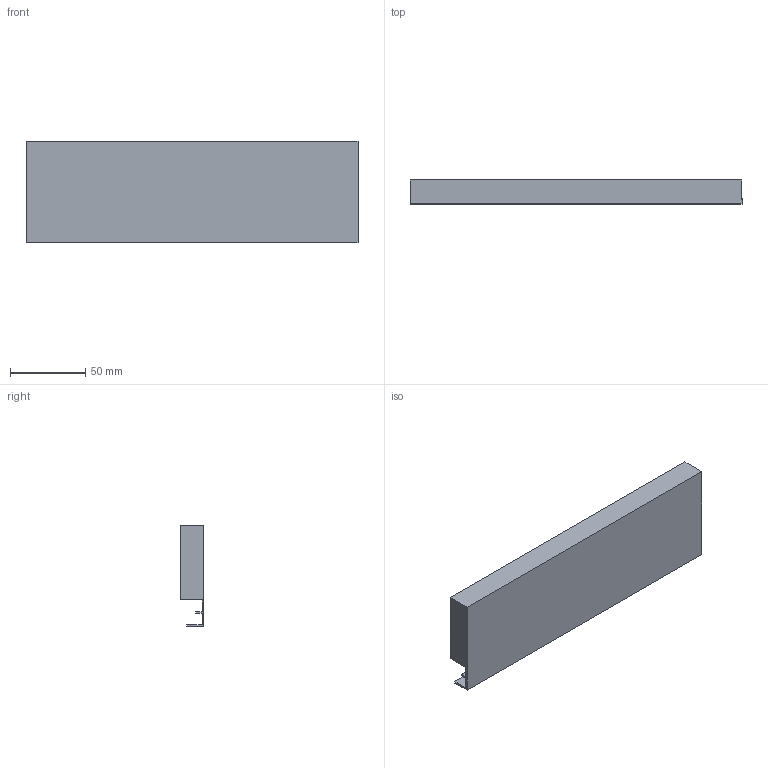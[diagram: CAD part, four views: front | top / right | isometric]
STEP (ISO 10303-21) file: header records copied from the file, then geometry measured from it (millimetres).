
FILE_DESCRIPTION (( 'STEP AP214' ), '1' );
FILE_NAME ('Innenschub-Blendenprofil_KAB350_S19.step', '2010-09-23T12:27:06', ( 'grass' ), ( '' ), 'SwSTEP 2.0', 'SolidWorks 2010', '' );
FILE_SCHEMA (( 'AUTOMOTIVE_DESIGN' ));
Length unit declared in the file: millimetre
Products named in the file (1): Innenschub-Blendenprofil_KAB350_S19
Bounding box: 221 x 15.9 x 67.6 mm (x, y, z)
Volume: 183212.3 mm3; surface area: 45053.2 mm2
Topology: 1 solids, 1 shells, 17 faces, 42 edges, 28 vertices
Faces by surface type: plane 15, cylinder 2
Entity records: 534 total; most frequent: CARTESIAN_POINT 88, ORIENTED_EDGE 84, DIRECTION 82, EDGE_CURVE 42, LINE 38, VECTOR 38, VERTEX_POINT 28, AXIS2_PLACEMENT_3D 22
